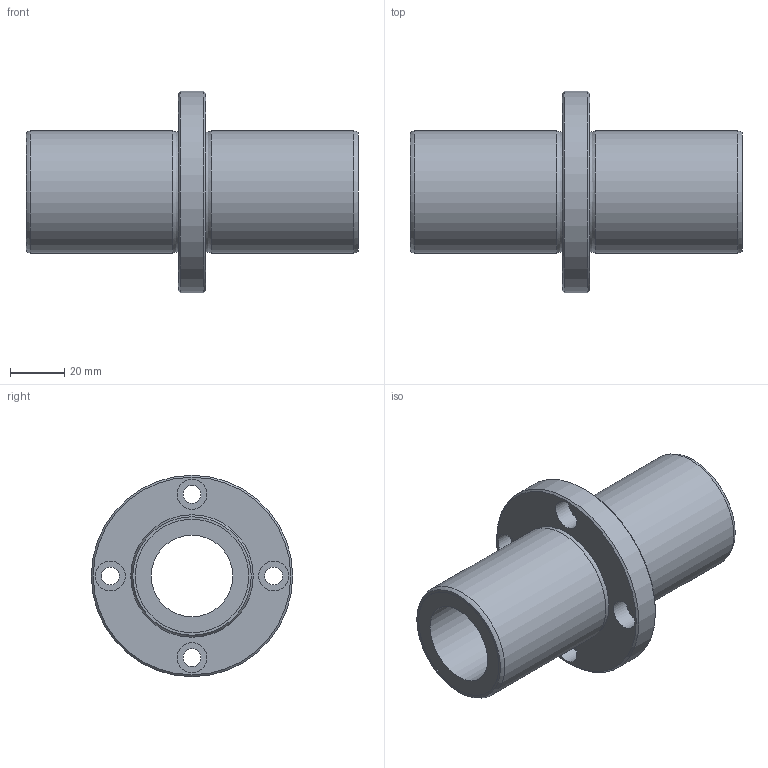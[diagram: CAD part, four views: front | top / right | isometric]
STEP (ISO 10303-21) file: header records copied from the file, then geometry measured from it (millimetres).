
FILE_DESCRIPTION((''),'2;1');
FILE_NAME('D:\製品 (図面)\カタログ用3D\リニアベアリング関連\STEP形式\LFDC\LFDC30.stp','2010-06-03T09:28:19',('Tsuchiya'),(''),'Autodesk Inventor 10','Autodesk Inventor 10','');
FILE_SCHEMA(('AUTOMOTIVE_DESIGN { 1 0 10303 214 1 1 1 1 }'));
Length unit declared in the file: millimetre
Products named in the file (1): LFDC30
Bounding box: 122 x 74 x 74 mm (x, y, z)
Volume: 131355.7 mm3; surface area: 37546.6 mm2
Topology: 1 solids, 1 shells, 30 faces, 54 edges, 34 vertices
Faces by surface type: cylinder 14, plane 10, cone 2, torus 2, bspline 2
Full cylindrical faces by diameter (mm): 6.6 x4, 11 x4, 30 x1, 41.7 x2, 45 x2, 74 x1
Entity records: 803 total; most frequent: CARTESIAN_POINT 223, DIRECTION 126, ORIENTED_EDGE 68, EDGE_LOOP 68, AXIS2_PLACEMENT_3D 63, FACE_BOUND 38, VERTEX_POINT 34, CIRCLE 34
